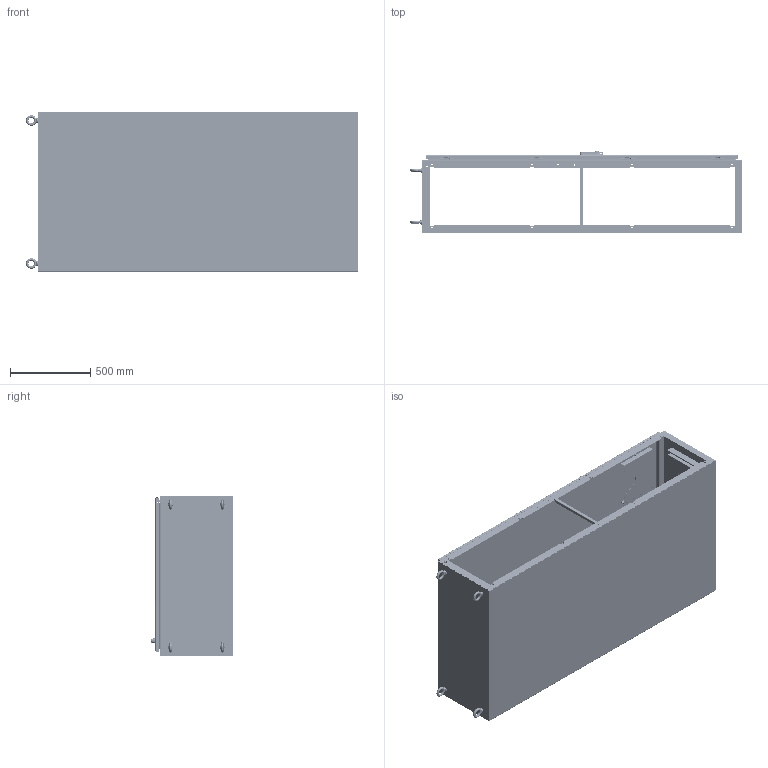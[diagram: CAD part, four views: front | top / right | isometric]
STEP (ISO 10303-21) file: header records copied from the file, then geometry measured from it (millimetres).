
FILE_DESCRIPTION((''),'2;1');
FILE_NAME('MODEL-255_ASM','2021-08-02T11:47:45',('mikek'),('SAGINAW CONTROL & ENGINEERING'),'CREO PARAMETRIC BY PTC INC, 2017260','CREO PARAMETRIC BY PTC INC, 2017260','');
FILE_SCHEMA(('AUTOMOTIVE_DESIGN { 1 0 10303 214 1 1 1 1 }'));
Length unit declared in the file: inch
Products named in the file (61): MODEL-255-R-SD; MODEL-255-L-SD; MODEL-255-TP; MODEL-255-BTM; MODEL-255-DR; 100837; 111267; 100882; 129332-HANDLE-BODY; 129332-HANDLE-SHAFT-O-RING; 129332-HANDLE; 129332-HANDLE-CAP; 129332-HANDLE-SHAFT; 129332-HANDLE-PIN; 129332-HANDLE_ASM; 129332-BODY-CAP; 129332-HANDLE-STOP; 129332-CAM-ADAPTER; 129332-LOCK-NUT; 129332-NUT; 129332_ASM; 102237; 100030; 102237_ASM; MODEL-255-ROD-UPR; 128146; 128145; 128144; 102482; MODEL-255-ROD-UPR_ASM; 128143; 112504; MODEL-255-ROD-LWR; MODEL-255-ROD-LWR_ASM; MODEL-255-GSKT; 128257; 126397; 128257_ASM; 126393; 102483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
Assembly tree (123 placements, depth 5):
  MODEL-255_ASM
    MODEL-255-R-SD
    MODEL-255-L-SD
    MODEL-255-TP
    MODEL-255-BTM
    MODEL-255-DOOR-ASSY_ASM
      MODEL-255-DR
      100837  x5
      111267
      100882  x12
      129332_ASM
        129332-HANDLE-BODY
        129332-HANDLE_ASM
          129332-HANDLE-SHAFT-O-RING
          129332-HANDLE
          129332-HANDLE-CAP
          129332-HANDLE-SHAFT
          129332-HANDLE-PIN
        129332-BODY-CAP
        129332-HANDLE-STOP
        129332-CAM-ADAPTER
        129332-LOCK-NUT
        129332-NUT  x2
      102237_ASM
        102237
        100030  x2
      MODEL-255-ROD-UPR_ASM
        MODEL-255-ROD-UPR
        128146
        128145
        128144
        102482  x2
      128143  x2
      112504  x2
      MODEL-255-ROD-LWR_ASM
        MODEL-255-ROD-LWR
        128146
        128145
        128144
        102482  x2
      MODEL-255-GSKT
      128257_ASM  x4
        128257
        126397
      126393  x4
      102483  x4
      101369_ASM  x4
        101369
        101369-STUD
      101221  x4
    100064  x5
    MODEL-255-EBS  x2
    MODEL-255-B22  x4
    102278  x2
    103300_ASM  x4
      100834
      109064
      114505
    102297
    100882  x8
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Bounding box: 2074.9 x 511.82 x 1004.01 mm (x, y, z)
Volume: 17804099.9 mm3; surface area: 13099599.8 mm2
Topology: 128 solids, 128 shells, 12687 faces, 33596 edges, 21107 vertices
Faces by surface type: plane 4309, bspline 3831, cylinder 3203, torus 653, cone 392, sphere 269, extrusion 30
Entity records: 260486 total; most frequent: CARTESIAN_POINT 104957, ORIENTED_EDGE 23890, DIRECTION 21214, PRESENTATION_STYLE_ASSIGNMENT 11986, STYLED_ITEM 11986, EDGE_CURVE 11945, CURVE_STYLE 11933, AXIS2_PLACEMENT_3D 7950
